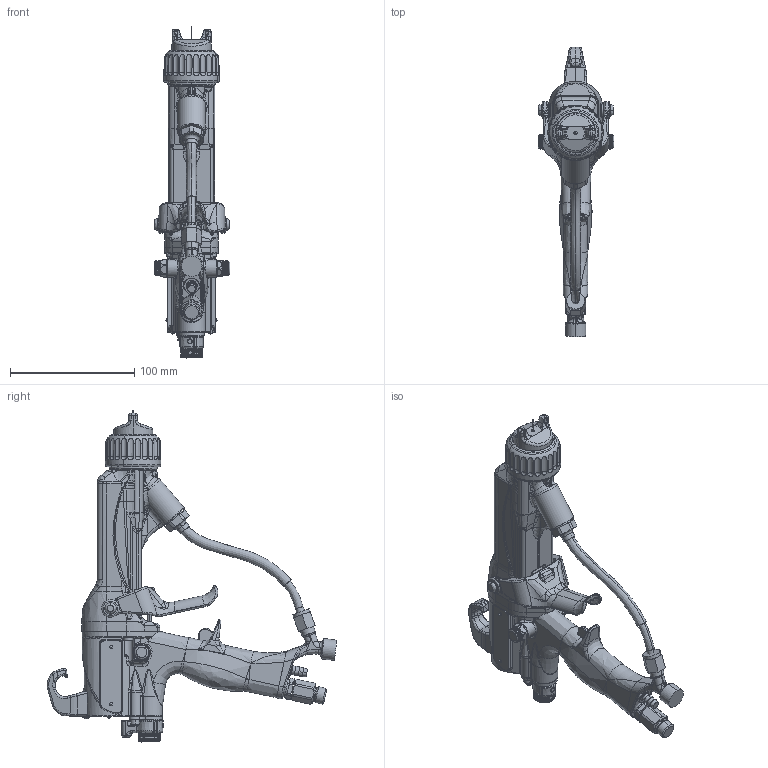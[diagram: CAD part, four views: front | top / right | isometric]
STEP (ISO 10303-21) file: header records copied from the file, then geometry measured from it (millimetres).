
FILE_DESCRIPTION((''),'2;1');
FILE_NAME('L85T10-EN-U_PRT','2020-05-18T18:56:14',('qusrh3'),(''),'CREO PARAMETRIC BY PTC INC, 2019030','CREO PARAMETRIC BY PTC INC, 2019030','');
FILE_SCHEMA(('CONFIG_CONTROL_DESIGN'));
Products named in the file (1): L85T10-EN-U_PRT
Bounding box: 61.15 x 233.22 x 267.23 mm (x, y, z)
Surface area: 93312.1 mm2 (no closed solid volume)
Topology: 0 solids, 61 shells, 2654 faces, 7343 edges, 4538 vertices
Faces by surface type: bspline 890, cylinder 672, plane 556, torus 241, cone 231, sphere 56, extrusion 8
Entity records: 135405 total; most frequent: CARTESIAN_POINT 76643, ORIENTED_EDGE 13334, DIRECTION 10263, EDGE_CURVE 7334, VERTEX_POINT 4538, AXIS2_PLACEMENT_3D 4173, B_SPLINE_CURVE_WITH_KNOTS 3016, EDGE_LOOP 2654
